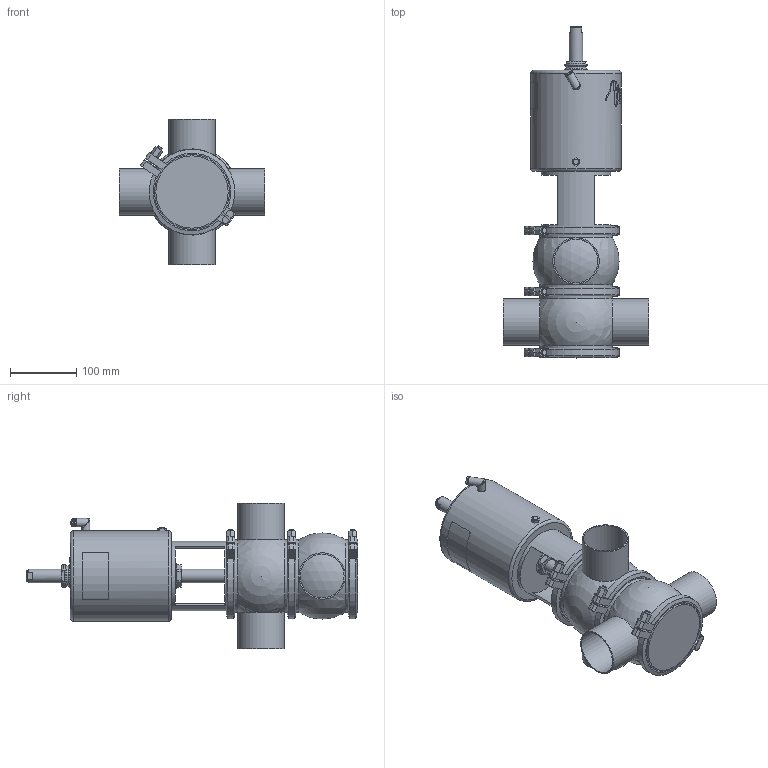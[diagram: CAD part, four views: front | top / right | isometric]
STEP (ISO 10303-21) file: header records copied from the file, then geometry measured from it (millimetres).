
FILE_DESCRIPTION (( 'STEP AP214' ), '1' );
FILE_NAME ('INNOVA M C W DIN 065 T3 AS NC_10.241.16.0007.STEP', '2024-08-07T12:40:33', ( '' ), ( '' ), 'SwSTEP 2.0', 'SolidWorks 2023', '' );
FILE_SCHEMA (( 'AUTOMOTIVE_DESIGN' ));
Length unit declared in the file: millimetre
Products named in the file (6): 10.240.15.0007_DIN 065; 10.240.15.0010_DN 065; 10.240.15.0014_T3 AS P180; 10.240.15.0001_DN 065; 10.241.15.0001_DIN 065; INNOVA M C W DIN 065 T3 AS NC_10.241.16.0007
Assembly tree (8 placements, depth 2):
  INNOVA M C W DIN 065 T3 AS NC_10.241.16.0007
    10.240.15.0007_DIN 065  x2
    10.240.15.0010_DN 065
    10.240.15.0014_T3 AS P180
    10.240.15.0001_DN 065  x3
    10.241.15.0001_DIN 065
Bounding box: 220 x 500.5 x 220 mm (x, y, z)
Volume: 4829944.7 mm3; surface area: 476499 mm2
Topology: 9 solids, 9 shells, 471 faces, 1229 edges, 803 vertices
Faces by surface type: plane 231, cylinder 114, bspline 80, cone 36, sphere 6, torus 4
Full cylindrical faces by diameter (mm): 6.15 x1, 8 x7, 8.5 x1, 10.5 x1, 12.5 x3, 16 x1, 20 x2, 31 x1, 34.5 x2, 36.5 x1, 66 x4, 70 x4, 105 x1, 109 x5, 121 x6, 136 x1
Entity records: 20500 total; most frequent: CARTESIAN_POINT 11289, ORIENTED_EDGE 1604, DIRECTION 1229, EDGE_CURVE 802, VERTEX_POINT 553, AXIS2_PLACEMENT_3D 470, EDGE_LOOP 411, FACE_OUTER_BOUND 368
